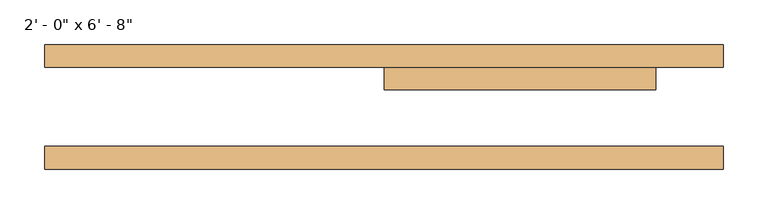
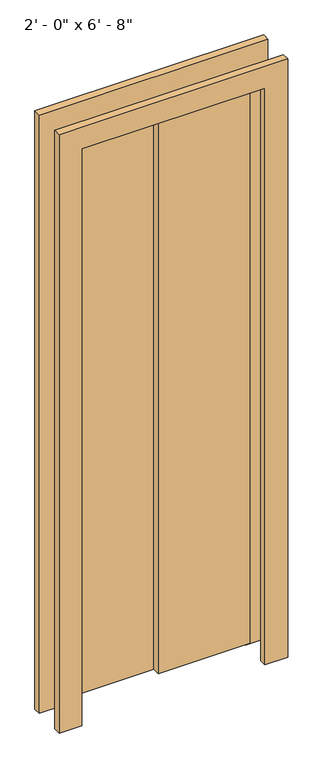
"""IFC4 building model written with IfcOpenShell, lengths in millimetres: door geometry."""

from ifc_helpers import new_model, si_unit, frame, origin, place, context, project, spatial, polyline, outline, extrude, source, transform, mapped, element, save


def door_d2b762fc(model_context):
    return source(origin(), model_context, "Body", "SweptSolid", [
        extrude(outline(polyline([(2032.0, -152.4), (2032.0, 457.2), (0.0, 457.2), (0.0, 533.4), (2108.2, 533.4), (2108.2, -228.6), (0.0, -228.6), (0.0, -152.4), (2032.0, -152.4)])), frame((0.0, -85.8124703, 0.0), z_axis=(0.0, 1.0, 0.0), x_axis=(0.0, 0.0, 1.0)), (0.0, 0.0, 1.0), 25.4),
        extrude(outline(polyline([(2032.0, -152.4), (2032.0, 457.2), (0.0, 457.2), (0.0, 533.4), (2108.2, 533.4), (2108.2, -228.6), (0.0, -228.6), (0.0, -152.4), (2032.0, -152.4)])), frame((0.0, 28.4875297, 0.0), z_axis=(0.0, 1.0, 0.0), x_axis=(0.0, 0.0, 1.0)), (0.0, 0.0, 1.0), 25.4),
        extrude(outline(polyline([(-152.4, 34.8375297), (152.4, 34.8375297), (152.4, 28.4875297), (-152.4, 28.4875297), (-152.4, 34.8375297)])), frame((0.0, 0.0, 22.225), z_axis=(0.0, 0.0, 1.0), x_axis=(1.0, 0.0, 0.0)), (0.0, 0.0, 1.0), 1993.9),
        extrude(outline(polyline([(152.4, 28.4875297), (457.2, 28.4875297), (457.2, 3.0875297), (152.4, 3.0875297), (152.4, 28.4875297)])), frame((0.0, 0.0, 22.225), z_axis=(0.0, 0.0, 1.0), x_axis=(1.0, 0.0, 0.0)), (0.0, 0.0, 1.0), 1993.9),
    ])


if __name__ == "__main__":
    model = new_model("IFC4")
    model_context = context("Model", 3, world=origin())
    ifc_project = project(units=[si_unit("LENGTHUNIT", "METRE", prefix="MILLI")], contexts=[model_context])
    site = spatial("IfcSite", under=ifc_project)
    building = spatial("IfcBuilding", under=site)
    placement = place(None, origin())
    door_shape = door_d2b762fc(model_context)
    element("IfcDoor", 1, ObjectType="Door-Bifold_2-Panel_Flush_SlimFold_Dunbarton : 2' - 0\" x 6' - 8\"", at=placement, inside=building, context=model_context, shape_type="MappedRepresentation", body=[
        mapped(door_shape, transform((0.0, 0.0, 0.0), x_axis=(1.0, 0.0, 0.0), y_axis=(0.0, 1.0, 0.0), z_axis=(0.0, 0.0, 1.0))),
    ])
    save(model, "model.ifc")
